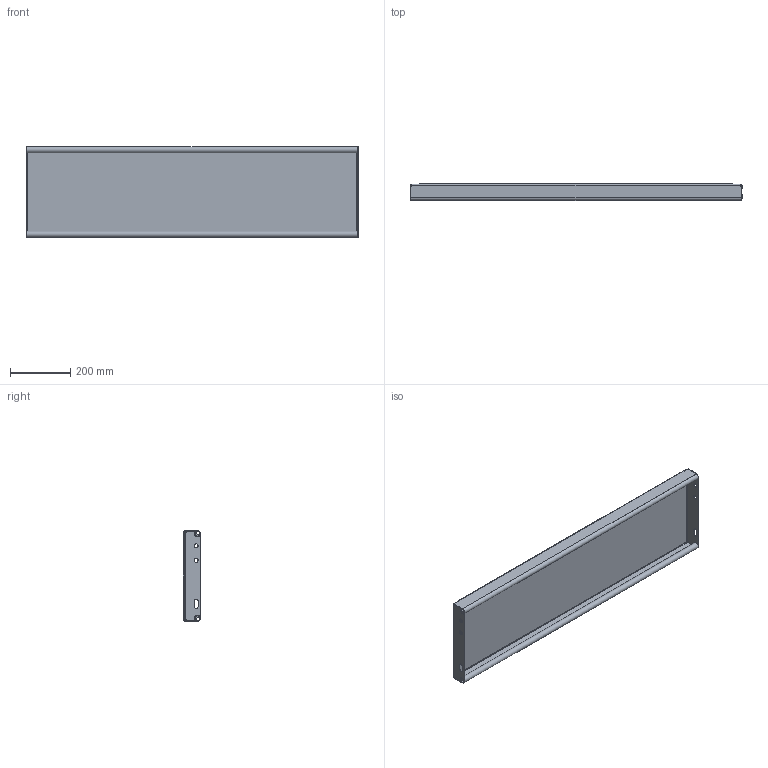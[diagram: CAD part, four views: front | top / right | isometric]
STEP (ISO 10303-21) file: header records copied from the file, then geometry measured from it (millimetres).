
FILE_DESCRIPTION (( 'STEP AP214' ), '1' );
FILE_NAME ('OPTIMO-Tread-Achil-O2-1100x300x57x2-st240-F100550100_plain.STEP', '2021-03-18T12:53:01', ( '' ), ( '' ), 'SwSTEP 2.0', 'SolidWorks 2021', '' );
FILE_SCHEMA (( 'AUTOMOTIVE_DESIGN' ));
Length unit declared in the file: millimetre
Products named in the file (1): OPTIMO-Tread-Achil-O2-1100x300x57x2-st240-F100550100_plain
Bounding box: 1100 x 57 x 300 mm (x, y, z)
Volume: 2019661.2 mm3; surface area: 1124224.8 mm2
Topology: 1 solids, 1 shells, 252 faces, 652 edges, 420 vertices
Faces by surface type: plane 173, cylinder 40, bspline 39
Entity records: 10072 total; most frequent: CARTESIAN_POINT 4116, ORIENTED_EDGE 1304, DIRECTION 1050, EDGE_CURVE 652, LINE 494, VECTOR 494, VERTEX_POINT 420, EDGE_LOOP 282
